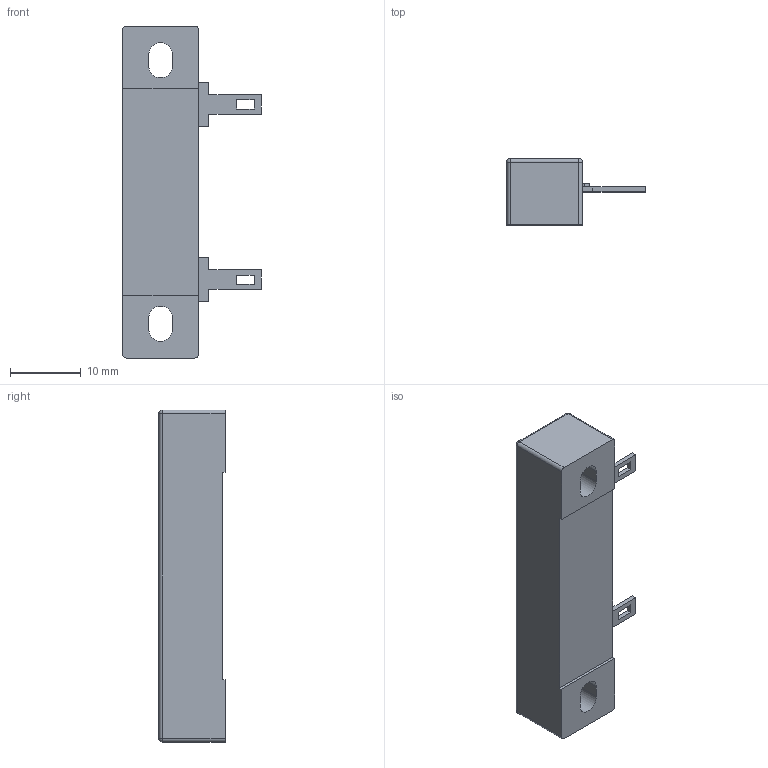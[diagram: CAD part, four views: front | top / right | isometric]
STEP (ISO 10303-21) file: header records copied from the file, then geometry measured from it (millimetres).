
FILE_DESCRIPTION (( 'STEP AP203' ), '1' );
FILE_NAME ('SM2125.STEP', '2019-09-12T17:06:38', ( '' ), ( '' ), 'SwSTEP 2.0', 'SolidWorks 2012', '' );
FILE_SCHEMA (( 'CONFIG_CONTROL_DESIGN' ));
Length unit declared in the file: millimetre
Products named in the file (1): SM2125
Bounding box: 19.6 x 9.4 x 47 mm (x, y, z)
Volume: 4093.5 mm3; surface area: 2487.5 mm2
Topology: 1 solids, 1 shells, 78 faces, 204 edges, 128 vertices
Faces by surface type: plane 50, cylinder 24, sphere 4
Entity records: 2437 total; most frequent: CARTESIAN_POINT 407, DIRECTION 406, ORIENTED_EDGE 400, EDGE_CURVE 200, VECTOR 152, LINE 152, VERTEX_POINT 128, AXIS2_PLACEMENT_3D 127
